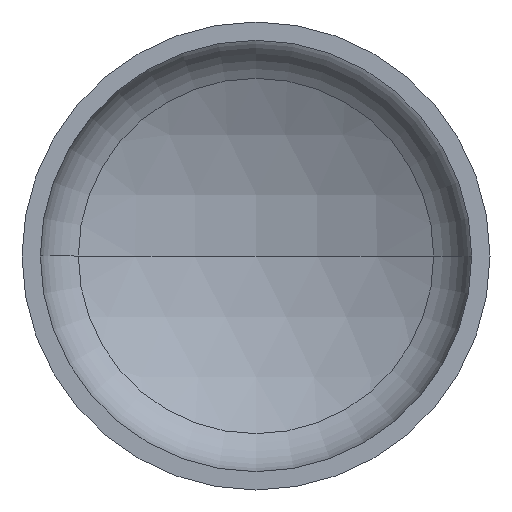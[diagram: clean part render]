
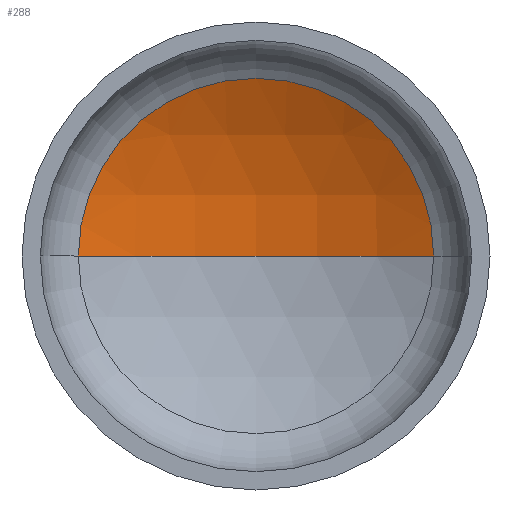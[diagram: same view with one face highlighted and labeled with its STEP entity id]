
A CAD part, front view. The second image highlights one B-rep face of the part: STEP entity #288.
In plain terms, the highlighted spherical face has radius 1760 mm.
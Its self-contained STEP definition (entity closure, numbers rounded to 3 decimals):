
#11 = EDGE_LOOP ( 'NONE', ( #72, #105, #69 ) ) ;
#14 = DIRECTION ( 'NONE',  ( -1., 0., 0. ) ) ;
#16 = AXIS2_PLACEMENT_3D ( 'NONE', #391, #242, #14 ) ;
#17 = CIRCLE ( 'NONE', #16, 1760. ) ;
#19 = AXIS2_PLACEMENT_3D ( 'NONE', #175, #341, #198 ) ;
#24 = AXIS2_PLACEMENT_3D ( 'NONE', #307, #110, #363 ) ;
#43 = VERTEX_POINT ( 'NONE', #324 ) ;
#44 = VERTEX_POINT ( 'NONE', #186 ) ;
#52 = SPHERICAL_SURFACE ( 'NONE', #24, 1760. ) ;
#69 = ORIENTED_EDGE ( 'NONE', *, *, #327, .T. ) ;
#72 = ORIENTED_EDGE ( 'NONE', *, *, #375, .F. ) ;
#74 = VERTEX_POINT ( 'NONE', #210 ) ;
#105 = ORIENTED_EDGE ( 'NONE', *, *, #330, .T. ) ;
#110 = DIRECTION ( 'NONE',  ( 0., 0., -1. ) ) ;
#169 = CIRCLE ( 'NONE', #19, 835.38 ) ;
#175 = CARTESIAN_POINT ( 'NONE',  ( 0., 399.26, 0. ) ) ;
#186 = CARTESIAN_POINT ( 'NONE',  ( 0., 610.15, 0. ) ) ;
#198 = DIRECTION ( 'NONE',  ( 1., 0., 0. ) ) ;
#206 = CIRCLE ( 'NONE', #291, 1760. ) ;
#210 = CARTESIAN_POINT ( 'NONE',  ( 835.38, 399.26, 0. ) ) ;
#226 = CARTESIAN_POINT ( 'NONE',  ( 0., -1149.85, 0. ) ) ;
#242 = DIRECTION ( 'NONE',  ( 0., 0., -1. ) ) ;
#246 = DIRECTION ( 'NONE',  ( 1., 0., 0. ) ) ;
#288 = ADVANCED_FACE ( 'NONE', ( #366 ), #52, .F. ) ;
#291 = AXIS2_PLACEMENT_3D ( 'NONE', #226, #394, #246 ) ;
#307 = CARTESIAN_POINT ( 'NONE',  ( 0., -1149.85, 0. ) ) ;
#324 = CARTESIAN_POINT ( 'NONE',  ( -835.38, 399.26, 0. ) ) ;
#327 = EDGE_CURVE ( 'NONE', #74, #43, #169, .T. ) ;
#330 = EDGE_CURVE ( 'NONE', #44, #74, #17, .T. ) ;
#341 = DIRECTION ( 'NONE',  ( 0., -1., 0. ) ) ;
#363 = DIRECTION ( 'NONE',  ( -1., 0., 0. ) ) ;
#366 = FACE_OUTER_BOUND ( 'NONE', #11, .T. ) ;
#375 = EDGE_CURVE ( 'NONE', #44, #43, #206, .T. ) ;
#391 = CARTESIAN_POINT ( 'NONE',  ( 0., -1149.85, 0. ) ) ;
#394 = DIRECTION ( 'NONE',  ( 0., 0., 1. ) ) ;
